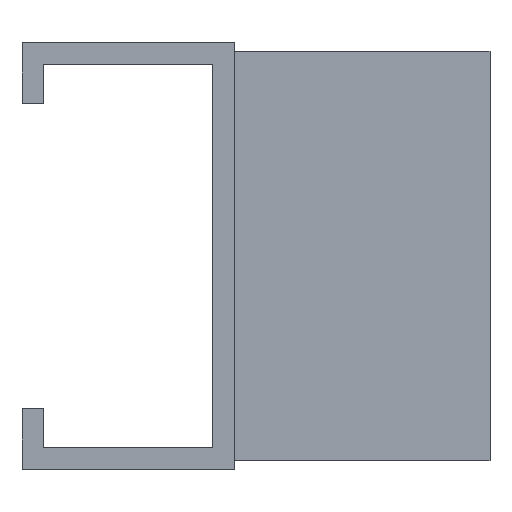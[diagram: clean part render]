
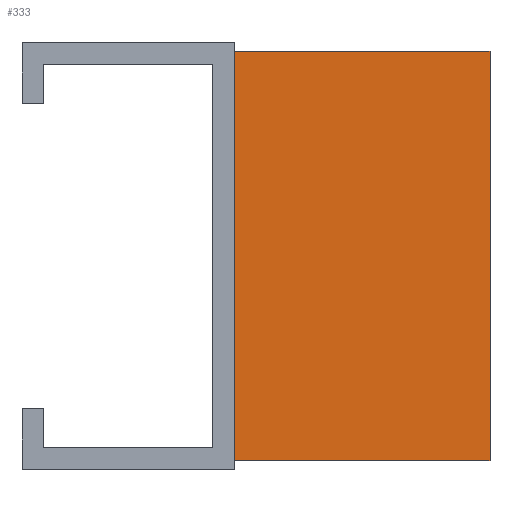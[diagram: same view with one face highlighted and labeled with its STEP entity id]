
A CAD part, left-side view. The second image highlights one B-rep face of the part: STEP entity #333.
In plain terms, the highlighted planar face has unit normal (-1, 0, 0).
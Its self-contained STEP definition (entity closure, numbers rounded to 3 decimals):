
#12 = VECTOR ( 'NONE', #252, 1000. ) ;
#14 = CARTESIAN_POINT ( 'NONE',  ( -16.3, -11., -21.9 ) ) ;
#20 = DIRECTION ( 'NONE',  ( 0., 0., -1. ) ) ;
#52 = EDGE_CURVE ( 'NONE', #726, #349, #592, .T. ) ;
#60 = VERTEX_POINT ( 'NONE', #466 ) ;
#63 = EDGE_CURVE ( 'NONE', #726, #275, #530, .T. ) ;
#64 = CARTESIAN_POINT ( 'NONE',  ( -16.3, 16.3, -21.9 ) ) ;
#112 = FACE_OUTER_BOUND ( 'NONE', #277, .T. ) ;
#122 = CARTESIAN_POINT ( 'NONE',  ( -16.3, 16.3, -21.9 ) ) ;
#156 = ORIENTED_EDGE ( 'NONE', *, *, #63, .F. ) ;
#168 = AXIS2_PLACEMENT_3D ( 'NONE', #695, #583, #20 ) ;
#189 = EDGE_CURVE ( 'NONE', #349, #60, #383, .T. ) ;
#193 = DIRECTION ( 'NONE',  ( 0., 0., 1. ) ) ;
#205 = VECTOR ( 'NONE', #311, 1000. ) ;
#228 = VECTOR ( 'NONE', #193, 1000. ) ;
#232 = ORIENTED_EDGE ( 'NONE', *, *, #52, .T. ) ;
#252 = DIRECTION ( 'NONE',  ( 0., 1., 0. ) ) ;
#275 = VERTEX_POINT ( 'NONE', #122 ) ;
#277 = EDGE_LOOP ( 'NONE', ( #671, #696, #156, #232 ) ) ;
#295 = DIRECTION ( 'NONE',  ( 0., 0., 1. ) ) ;
#311 = DIRECTION ( 'NONE',  ( 0., 1., 0. ) ) ;
#333 = ADVANCED_FACE ( 'NONE', ( #112 ), #479, .F. ) ;
#346 = EDGE_CURVE ( 'NONE', #275, #60, #413, .T. ) ;
#349 = VERTEX_POINT ( 'NONE', #472 ) ;
#353 = CARTESIAN_POINT ( 'NONE',  ( -16.3, 16.3, -21.9 ) ) ;
#383 = LINE ( 'NONE', #441, #205 ) ;
#413 = LINE ( 'NONE', #353, #228 ) ;
#441 = CARTESIAN_POINT ( 'NONE',  ( -16.3, 16.3, 21.9 ) ) ;
#466 = CARTESIAN_POINT ( 'NONE',  ( -16.3, 16.3, 21.9 ) ) ;
#472 = CARTESIAN_POINT ( 'NONE',  ( -16.3, -11., 21.9 ) ) ;
#479 = PLANE ( 'NONE',  #168 ) ;
#530 = LINE ( 'NONE', #64, #12 ) ;
#583 = DIRECTION ( 'NONE',  ( 1., 0., 0. ) ) ;
#592 = LINE ( 'NONE', #652, #617 ) ;
#617 = VECTOR ( 'NONE', #295, 1000. ) ;
#652 = CARTESIAN_POINT ( 'NONE',  ( -16.3, -11., -21.9 ) ) ;
#671 = ORIENTED_EDGE ( 'NONE', *, *, #189, .T. ) ;
#695 = CARTESIAN_POINT ( 'NONE',  ( -16.3, 16.3, -21.9 ) ) ;
#696 = ORIENTED_EDGE ( 'NONE', *, *, #346, .F. ) ;
#726 = VERTEX_POINT ( 'NONE', #14 ) ;
